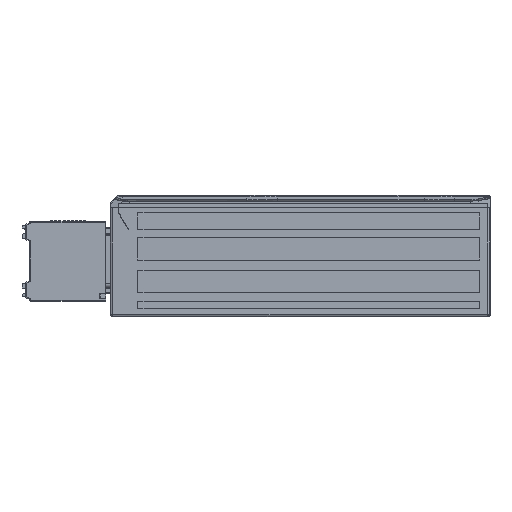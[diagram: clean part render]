
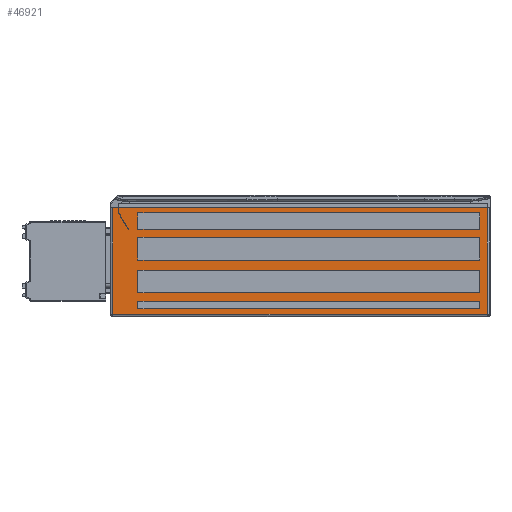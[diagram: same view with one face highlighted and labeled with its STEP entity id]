
A CAD part, left-side view. The second image highlights one B-rep face of the part: STEP entity #46921.
In plain terms, the highlighted planar face has unit normal (-1, 0, 0).
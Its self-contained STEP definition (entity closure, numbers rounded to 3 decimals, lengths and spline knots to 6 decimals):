
#2001=DIRECTION('',(0.,-1.,0.));
#2002=VECTOR('',#2001,0.074);
#2003=CARTESIAN_POINT('',(0.,0.0745,0.0005));
#2004=LINE('',#2003,#2002);
#2010=DIRECTION('',(0.,0.,1.));
#2011=VECTOR('',#2010,0.021);
#2012=CARTESIAN_POINT('',(0.,0.0005,0.0005));
#2013=LINE('',#2012,#2011);
#2035=DIRECTION('',(0.,0.53,0.848));
#2036=VECTOR('',#2035,0.003774);
#2037=CARTESIAN_POINT('',(0.,0.0713,0.0173));
#2038=LINE('',#2037,#2036);
#2039=DIRECTION('',(0.,0.,1.));
#2040=VECTOR('',#2039,0.001);
#2041=CARTESIAN_POINT('',(0.,0.0733,0.0205));
#2042=LINE('',#2041,#2040);
#2043=DIRECTION('',(0.,-1.,0.));
#2044=VECTOR('',#2043,0.0728);
#2045=CARTESIAN_POINT('',(0.,0.0733,0.0215));
#2046=LINE('',#2045,#2044);
#2047=DIRECTION('',(0.,-0.53,-0.848));
#2048=VECTOR('',#2047,0.003774);
#2049=CARTESIAN_POINT('',(0.,0.0734,0.0205));
#2050=LINE('',#2049,#2048);
#2051=DIRECTION('',(0.,-1.,0.));
#2052=VECTOR('',#2051,0.0001);
#2053=CARTESIAN_POINT('',(0.,0.0714,0.0173));
#2054=LINE('',#2053,#2052);
#2055=DIRECTION('',(0.,0.,-1.));
#2056=VECTOR('',#2055,0.0015);
#2057=CARTESIAN_POINT('',(0.,0.0695,0.0031));
#2058=LINE('',#2057,#2056);
#2059=DIRECTION('',(0.,-1.,0.));
#2060=VECTOR('',#2059,0.0675);
#2061=CARTESIAN_POINT('',(0.,0.0695,0.0016));
#2062=LINE('',#2061,#2060);
#2063=DIRECTION('',(0.,0.,1.));
#2064=VECTOR('',#2063,0.0015);
#2065=CARTESIAN_POINT('',(0.,0.002,0.0016));
#2066=LINE('',#2065,#2064);
#2067=DIRECTION('',(0.,1.,0.));
#2068=VECTOR('',#2067,0.0675);
#2069=CARTESIAN_POINT('',(0.,0.002,0.0031));
#2070=LINE('',#2069,#2068);
#2071=DIRECTION('',(0.,0.,1.));
#2072=VECTOR('',#2071,0.0045);
#2073=CARTESIAN_POINT('',(0.,0.002,0.0047));
#2074=LINE('',#2073,#2072);
#2075=DIRECTION('',(0.,1.,0.));
#2076=VECTOR('',#2075,0.0675);
#2077=CARTESIAN_POINT('',(0.,0.002,0.0092));
#2078=LINE('',#2077,#2076);
#2079=DIRECTION('',(0.,0.,-1.));
#2080=VECTOR('',#2079,0.0045);
#2081=CARTESIAN_POINT('',(0.,0.0695,0.0092));
#2082=LINE('',#2081,#2080);
#2083=DIRECTION('',(0.,-1.,0.));
#2084=VECTOR('',#2083,0.0675);
#2085=CARTESIAN_POINT('',(0.,0.0695,0.0047));
#2086=LINE('',#2085,#2084);
#2087=DIRECTION('',(0.,0.,1.));
#2088=VECTOR('',#2087,0.0045);
#2089=CARTESIAN_POINT('',(0.,0.002,0.0112));
#2090=LINE('',#2089,#2088);
#2091=DIRECTION('',(0.,1.,0.));
#2092=VECTOR('',#2091,0.0675);
#2093=CARTESIAN_POINT('',(0.,0.002,0.0157));
#2094=LINE('',#2093,#2092);
#2095=DIRECTION('',(0.,0.,-1.));
#2096=VECTOR('',#2095,0.0045);
#2097=CARTESIAN_POINT('',(0.,0.0695,0.0157));
#2098=LINE('',#2097,#2096);
#2099=DIRECTION('',(0.,-1.,0.));
#2100=VECTOR('',#2099,0.0675);
#2101=CARTESIAN_POINT('',(0.,0.0695,0.0112));
#2102=LINE('',#2101,#2100);
#2103=DIRECTION('',(0.,0.,1.));
#2104=VECTOR('',#2103,0.0032);
#2105=CARTESIAN_POINT('',(0.,0.002,0.0173));
#2106=LINE('',#2105,#2104);
#2107=DIRECTION('',(0.,1.,0.));
#2108=VECTOR('',#2107,0.0675);
#2109=CARTESIAN_POINT('',(0.,0.002,0.0205));
#2110=LINE('',#2109,#2108);
#2111=DIRECTION('',(0.,0.,-1.));
#2112=VECTOR('',#2111,0.0032);
#2113=CARTESIAN_POINT('',(0.,0.0695,0.0205));
#2114=LINE('',#2113,#2112);
#2306=DIRECTION('',(0.,0.,1.));
#2307=VECTOR('',#2306,0.001);
#2308=CARTESIAN_POINT('',(0.,0.0734,0.0205));
#2309=LINE('',#2308,#2307);
#2508=DIRECTION('',(0.,1.,0.));
#2509=VECTOR('',#2508,0.0011);
#2510=CARTESIAN_POINT('',(0.,0.0734,0.0215));
#2511=LINE('',#2510,#2509);
#24336=DIRECTION('',(0.,0.,-1.));
#24337=VECTOR('',#24336,0.021);
#24338=CARTESIAN_POINT('',(0.,0.0745,0.0215));
#24339=LINE('',#24338,#24337);
#24648=DIRECTION('',(0.,1.,0.));
#24649=VECTOR('',#24648,0.0675);
#24650=CARTESIAN_POINT('',(0.,0.002,0.0173));
#24651=LINE('',#24650,#24649);
#40696=CARTESIAN_POINT('',(0.,0.0734,0.0205));
#40697=VERTEX_POINT('',#40696);
#40698=CARTESIAN_POINT('',(0.,0.0734,0.0215));
#40699=VERTEX_POINT('',#40698);
#40802=CARTESIAN_POINT('',(0.,0.0005,0.0215));
#40803=VERTEX_POINT('',#40802);
#40804=CARTESIAN_POINT('',(0.,0.0733,0.0215));
#40805=VERTEX_POINT('',#40804);
#40836=CARTESIAN_POINT('',(0.,0.0745,0.0215));
#40837=VERTEX_POINT('',#40836);
#40844=CARTESIAN_POINT('',(0.,0.0713,0.0173));
#40845=CARTESIAN_POINT('',(0.,0.0733,0.0205));
#40846=VERTEX_POINT('',#40844);
#40847=VERTEX_POINT('',#40845);
#40848=CARTESIAN_POINT('',(0.,0.0005,0.0005));
#40849=VERTEX_POINT('',#40848);
#40850=CARTESIAN_POINT('',(0.,0.0745,0.0005));
#40851=VERTEX_POINT('',#40850);
#40852=CARTESIAN_POINT('',(0.,0.0714,0.0173));
#40853=VERTEX_POINT('',#40852);
#40854=CARTESIAN_POINT('',(0.,0.0695,0.0031));
#40855=CARTESIAN_POINT('',(0.,0.0695,0.0016));
#40856=VERTEX_POINT('',#40854);
#40857=VERTEX_POINT('',#40855);
#40858=CARTESIAN_POINT('',(0.,0.002,0.0016));
#40859=VERTEX_POINT('',#40858);
#40860=CARTESIAN_POINT('',(0.,0.002,0.0031));
#40861=VERTEX_POINT('',#40860);
#40862=CARTESIAN_POINT('',(0.,0.002,0.0047));
#40863=CARTESIAN_POINT('',(0.,0.002,0.0092));
#40864=VERTEX_POINT('',#40862);
#40865=VERTEX_POINT('',#40863);
#40866=CARTESIAN_POINT('',(0.,0.0695,0.0092));
#40867=VERTEX_POINT('',#40866);
#40868=CARTESIAN_POINT('',(0.,0.0695,0.0047));
#40869=VERTEX_POINT('',#40868);
#40870=CARTESIAN_POINT('',(0.,0.002,0.0112));
#40871=CARTESIAN_POINT('',(0.,0.002,0.0157));
#40872=VERTEX_POINT('',#40870);
#40873=VERTEX_POINT('',#40871);
#40874=CARTESIAN_POINT('',(0.,0.0695,0.0157));
#40875=VERTEX_POINT('',#40874);
#40876=CARTESIAN_POINT('',(0.,0.0695,0.0112));
#40877=VERTEX_POINT('',#40876);
#40878=CARTESIAN_POINT('',(0.,0.002,0.0173));
#40879=CARTESIAN_POINT('',(0.,0.0695,0.0173));
#40880=VERTEX_POINT('',#40878);
#40881=VERTEX_POINT('',#40879);
#40882=CARTESIAN_POINT('',(0.,0.002,0.0205));
#40883=VERTEX_POINT('',#40882);
#40884=CARTESIAN_POINT('',(0.,0.0695,0.0205));
#40885=VERTEX_POINT('',#40884);
#46856=CARTESIAN_POINT('',(0.,0.067,0.));
#46857=DIRECTION('',(-1.,0.,0.));
#46858=DIRECTION('',(0.,-1.,0.));
#46859=AXIS2_PLACEMENT_3D('',#46856,#46857,#46858);
#46860=PLANE('',#46859);
#46862=ORIENTED_EDGE('',*,*,#46861,.T.);
#46864=ORIENTED_EDGE('',*,*,#46863,.T.);
#46866=ORIENTED_EDGE('',*,*,#46865,.T.);
#46867=ORIENTED_EDGE('',*,*,#46846,.F.);
#46868=ORIENTED_EDGE('',*,*,#46759,.F.);
#46870=ORIENTED_EDGE('',*,*,#46869,.F.);
#46872=ORIENTED_EDGE('',*,*,#46871,.F.);
#46874=ORIENTED_EDGE('',*,*,#46873,.F.);
#46876=ORIENTED_EDGE('',*,*,#46875,.T.);
#46878=ORIENTED_EDGE('',*,*,#46877,.T.);
#46879=EDGE_LOOP('',(#46862,#46864,#46866,#46867,#46868,#46870,#46872,#46874,
#46876,#46878));
#46880=FACE_OUTER_BOUND('',#46879,.F.);
#46882=ORIENTED_EDGE('',*,*,#46881,.T.);
#46884=ORIENTED_EDGE('',*,*,#46883,.T.);
#46886=ORIENTED_EDGE('',*,*,#46885,.T.);
#46888=ORIENTED_EDGE('',*,*,#46887,.T.);
#46889=EDGE_LOOP('',(#46882,#46884,#46886,#46888));
#46890=FACE_BOUND('',#46889,.F.);
#46892=ORIENTED_EDGE('',*,*,#46891,.T.);
#46894=ORIENTED_EDGE('',*,*,#46893,.T.);
#46896=ORIENTED_EDGE('',*,*,#46895,.T.);
#46898=ORIENTED_EDGE('',*,*,#46897,.T.);
#46899=EDGE_LOOP('',(#46892,#46894,#46896,#46898));
#46900=FACE_BOUND('',#46899,.F.);
#46902=ORIENTED_EDGE('',*,*,#46901,.T.);
#46904=ORIENTED_EDGE('',*,*,#46903,.T.);
#46906=ORIENTED_EDGE('',*,*,#46905,.T.);
#46908=ORIENTED_EDGE('',*,*,#46907,.T.);
#46909=EDGE_LOOP('',(#46902,#46904,#46906,#46908));
#46910=FACE_BOUND('',#46909,.F.);
#46912=ORIENTED_EDGE('',*,*,#46911,.F.);
#46914=ORIENTED_EDGE('',*,*,#46913,.T.);
#46916=ORIENTED_EDGE('',*,*,#46915,.T.);
#46918=ORIENTED_EDGE('',*,*,#46917,.T.);
#46919=EDGE_LOOP('',(#46912,#46914,#46916,#46918));
#46920=FACE_BOUND('',#46919,.F.);
#46759=EDGE_CURVE('',#40851,#40849,#2004,.T.);
#46846=EDGE_CURVE('',#40849,#40803,#2013,.T.);
#46861=EDGE_CURVE('',#40846,#40847,#2038,.T.);
#46863=EDGE_CURVE('',#40847,#40805,#2042,.T.);
#46865=EDGE_CURVE('',#40805,#40803,#2046,.T.);
#46869=EDGE_CURVE('',#40837,#40851,#24339,.T.);
#46871=EDGE_CURVE('',#40699,#40837,#2511,.T.);
#46873=EDGE_CURVE('',#40697,#40699,#2309,.T.);
#46875=EDGE_CURVE('',#40697,#40853,#2050,.T.);
#46877=EDGE_CURVE('',#40853,#40846,#2054,.T.);
#46881=EDGE_CURVE('',#40856,#40857,#2058,.T.);
#46883=EDGE_CURVE('',#40857,#40859,#2062,.T.);
#46885=EDGE_CURVE('',#40859,#40861,#2066,.T.);
#46887=EDGE_CURVE('',#40861,#40856,#2070,.T.);
#46891=EDGE_CURVE('',#40864,#40865,#2074,.T.);
#46893=EDGE_CURVE('',#40865,#40867,#2078,.T.);
#46895=EDGE_CURVE('',#40867,#40869,#2082,.T.);
#46897=EDGE_CURVE('',#40869,#40864,#2086,.T.);
#46901=EDGE_CURVE('',#40872,#40873,#2090,.T.);
#46903=EDGE_CURVE('',#40873,#40875,#2094,.T.);
#46905=EDGE_CURVE('',#40875,#40877,#2098,.T.);
#46907=EDGE_CURVE('',#40877,#40872,#2102,.T.);
#46911=EDGE_CURVE('',#40880,#40881,#24651,.T.);
#46913=EDGE_CURVE('',#40880,#40883,#2106,.T.);
#46915=EDGE_CURVE('',#40883,#40885,#2110,.T.);
#46917=EDGE_CURVE('',#40885,#40881,#2114,.T.);
#46921=ADVANCED_FACE('',(#46880,#46890,#46900,#46910,#46920),#46860,.T.);
